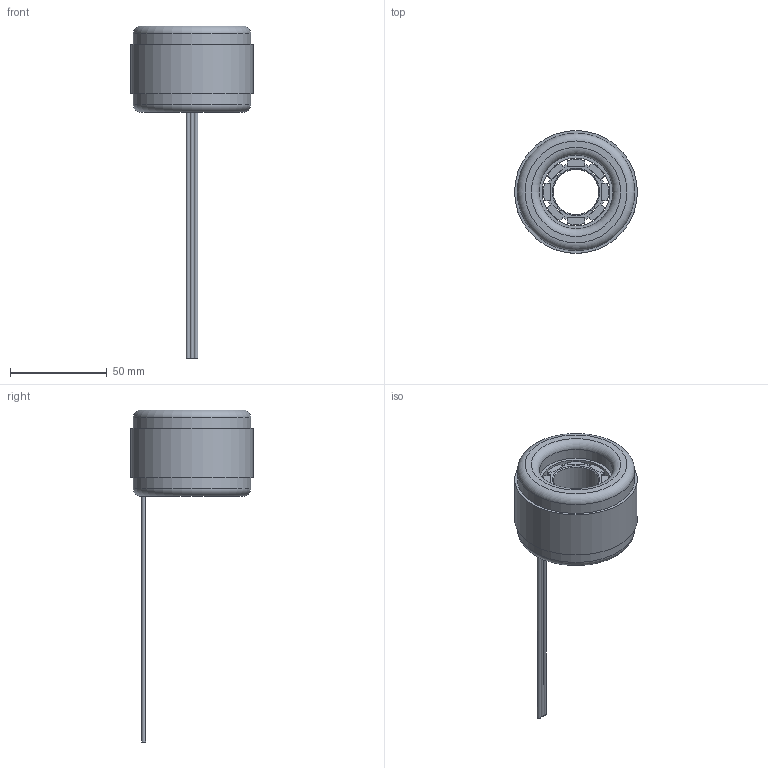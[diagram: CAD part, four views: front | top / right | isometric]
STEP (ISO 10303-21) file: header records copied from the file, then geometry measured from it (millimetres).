
FILE_DESCRIPTION(/* description */ (''),/* implementation_level */ '2;1');
FILE_NAME(/* name */ 'Z:\6. Product Library\1. Motor Library\STEPS\K064100-xx1.stp',/* time_stamp */ '2015-05-04T07:51:21-05:00',/* author */ ('ALA4428'),/* organization */ (''),/* preprocessor_version */ 'ST-DEVELOPER v15.2',/* originating_system */ 'Autodesk Inventor 2014',/* authorisation */ '');
FILE_SCHEMA (('AUTOMOTIVE_DESIGN { 1 0 10303 214 3 1 1 }'));
Length unit declared in the file: centimetre
Products named in the file (1): K064100-XX1
Bounding box: 63.5 x 63.5 x 171.6 mm (x, y, z)
Volume: 98998.3 mm3; surface area: 30552.5 mm2
Topology: 18 solids, 18 shells, 188 faces, 427 edges, 280 vertices
Faces by surface type: plane 147, cylinder 35, torus 4, cone 2
Full cylindrical faces by diameter (mm): 2 x2, 23.495 x1, 35.052 x1, 38.1 x2, 60.7 x2, 63.5 x1
Entity records: 5300 total; most frequent: CARTESIAN_POINT 883, DIRECTION 868, ORIENTED_EDGE 832, EDGE_CURVE 414, LINE 338, VECTOR 338, VERTEX_POINT 280, AXIS2_PLACEMENT_3D 265
